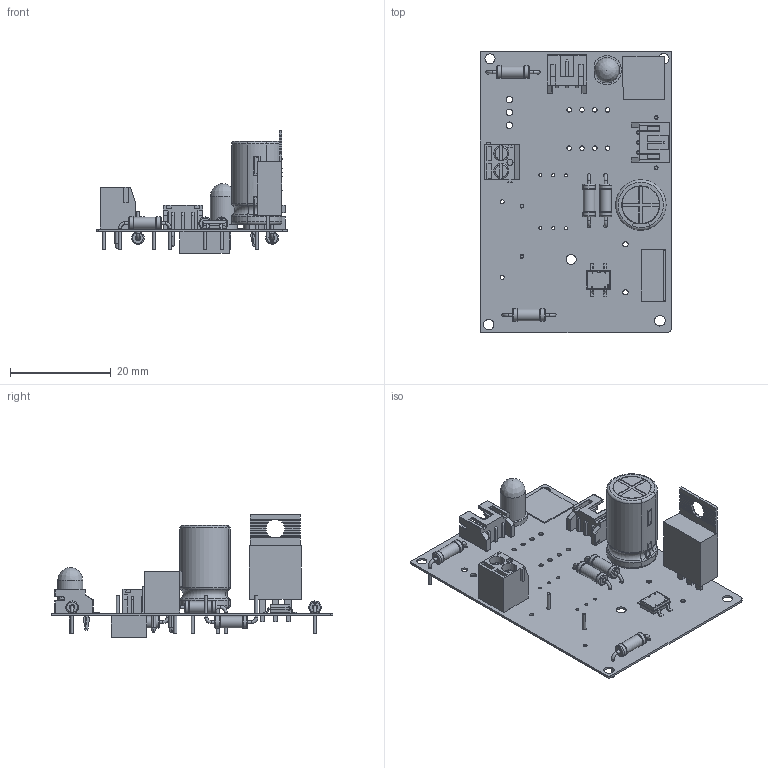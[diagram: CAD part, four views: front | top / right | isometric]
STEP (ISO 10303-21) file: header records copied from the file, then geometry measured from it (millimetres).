
FILE_DESCRIPTION(('Open CASCADE Model'),'2;1');
FILE_NAME('Open CASCADE Shape Model','2025-06-24T09:35:46',('Author'),( 'Open CASCADE'),'Open CASCADE STEP processor 7.5','Open CASCADE 7.5' ,'Unknown');
FILE_SCHEMA(('AUTOMOTIVE_DESIGN { 1 0 10303 214 1 1 1 1 }'));
Length unit declared in the file: millimetre
Products named in the file (83): Open CASCADE STEP translator 7.5 1; Open CASCADE STEP translator 7.5 2; Open CASCADE STEP translator 7.5 3; Open CASCADE STEP translator 7.5 4; Open CASCADE STEP translator 7.5 5; Open CASCADE STEP translator 7.5 6; Open CASCADE STEP translator 7.5 7; Open CASCADE STEP translator 7.5 8; Open CASCADE STEP translator 7.5 9; Open CASCADE STEP translator 7.5 10; Open CASCADE STEP translator 7.5 11; Open CASCADE STEP translator 7.5 12; Open CASCADE STEP translator 7.5 13; Open CASCADE STEP translator 7.5 14; Open CASCADE STEP translator 7.5 15; Open CASCADE STEP translator 7.5 16; Open CASCADE STEP translator 7.5 17; Open CASCADE STEP translator 7.5 18; Open CASCADE STEP translator 7.5 19; Open CASCADE STEP translator 7.5 20; Open CASCADE STEP translator 7.5 21; Open CASCADE STEP translator 7.5 22; Open CASCADE STEP translator 7.5 23; Open CASCADE STEP translator 7.5 24; Open CASCADE STEP translator 7.5 25; Open CASCADE STEP translator 7.5 26; Open CASCADE STEP translator 7.5 27; Open CASCADE STEP translator 7.5 28; Open CASCADE STEP translator 7.5 29; Open CASCADE STEP translator 7.5 30; Open CASCADE STEP translator 7.5 31; Open CASCADE STEP translator 7.5 32; Open CASCADE STEP translator 7.5 33; Open CASCADE STEP translator 7.5 34; Open CASCADE STEP translator 7.5 35; Open CASCADE STEP translator 7.5 36; Open CASCADE STEP translator 7.5 37; Open CASCADE STEP translator 7.5 38; Open CASCADE STEP translator 7.5 39; Open CASCADE STEP translator 7.5 40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
Bounding box: 38 x 56 x 24.44 mm (x, y, z)
Volume: 4012.4 mm3; surface area: 9488.7 mm2
Topology: 219 solids, 219 shells, 3377 faces, 8299 edges, 5352 vertices
Faces by surface type: plane 1955, bspline 687, cylinder 508, torus 143, sphere 72, cone 12
Full cylindrical faces by diameter (mm): 0.6 x32, 0.7 x6, 0.75 x12, 0.8 x4, 0.9 x8, 0.99 x2, 1 x3, 1.05 x2, 1.1 x2, 1.2 x2, 1.3 x3, 2 x2, 2.1 x3, 2.335 x6, 2.5 x12, 5 x1, 7.5 x2
Entity records: 111108 total; most frequent: CARTESIAN_POINT 27614, ORIENTED_EDGE 16572, DIRECTION 13815, EDGE_CURVE 8286, LINE 5491, VECTOR 5491, VERTEX_POINT 5352, AXIS2_PLACEMENT_3D 4162
